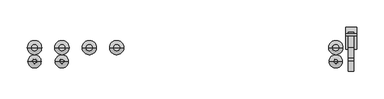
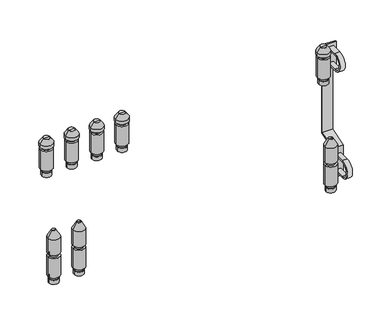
"""IFC4 building model written with IfcOpenShell, lengths in millimetres: valve geometry, PL CZ_Manifold_FT-VA : 12 circuits."""

from ifc_helpers import new_model, si_unit, point, frame, frame_2d, origin, origin_2d, place, context, project, spatial, polyline, circle_curve, trimmed, segment, composite_curve, outline, extrude, source, transform, mapped, element, save
from ifc_brep_helpers import plane_surface, cylinder_surface, revolved_surface, advanced_brep


def valve_8c27288c(model_context):
    return source(origin(), model_context, "Body", "SolidModel", [
        advanced_brep(
        [(178.5, 25.0, 174.88733), (197.5, 25.0, 174.88733), (188.0, 25.0, 174.88733), (178.5, 25.0, 182.9630354), (197.5, 25.0, 182.9630354), (180.0, 25.0, 182.9630354), (196.0, 25.0, 182.9630354), (180.0, 25.0, 189.669747), (196.0, 25.0, 189.669747), (176.0, 25.0, 189.669747), (200.0, 25.0, 189.669747), (176.0, 25.0, 230.330253), (200.0, 25.0, 230.330253), (180.0, 25.0, 230.330253), (196.0, 25.0, 230.330253), (180.0, 25.0, 236.0474786), (196.0, 25.0, 236.0474786), (175.0, 25.0, 236.0474786), (201.0, 25.0, 236.0474786), (175.0, 25.0, 242.337955), (201.0, 25.0, 242.337955), (181.6551779, 25.0, 251.842534), (194.3448221, 25.0, 251.842534), (188.0, 25.0, 251.842534)],
        [
            (0, 1, circle_curve(frame((188.0, 25.0, 174.88733), z_axis=(0.0, 0.0, -1.0), x_axis=(1.0, 0.0, 0.0)), 9.5)),
            (1, 2),
            (2, 0),
            (1, 0, circle_curve(frame((188.0, 25.0, 174.88733), z_axis=(0.0, 0.0, -1.0), x_axis=(1.0, 0.0, 0.0)), 9.5)),
            (3, 4, circle_curve(frame((188.0, 25.0, 182.9630354), z_axis=(0.0, 0.0, -1.0), x_axis=(1.0, 0.0, 0.0)), 9.5)),
            (4, 1),
            (0, 3),
            (4, 3, circle_curve(frame((188.0, 25.0, 182.9630354), z_axis=(0.0, 0.0, -1.0), x_axis=(1.0, 0.0, 0.0)), 9.5)),
            (5, 6, circle_curve(frame((188.0, 25.0, 182.9630354), z_axis=(0.0, 0.0, -1.0), x_axis=(1.0, 0.0, 0.0)), 8.0)),
            (6, 4),
            (3, 5),
            (6, 5, circle_curve(frame((188.0, 25.0, 182.9630354), z_axis=(0.0, 0.0, -1.0), x_axis=(1.0, 0.0, 0.0)), 8.0)),
            (7, 8, circle_curve(frame((188.0, 25.0, 189.669747), z_axis=(0.0, 0.0, -1.0), x_axis=(1.0, 0.0, 0.0)), 8.0)),
            (8, 6),
            (5, 7),
            (8, 7, circle_curve(frame((188.0, 25.0, 189.669747), z_axis=(0.0, 0.0, -1.0), x_axis=(1.0, 0.0, 0.0)), 8.0)),
            (9, 10, circle_curve(frame((188.0, 25.0, 189.669747), z_axis=(0.0, 0.0, -1.0), x_axis=(1.0, 0.0, 0.0)), 12.0)),
            (10, 8),
            (7, 9),
            (10, 9, circle_curve(frame((188.0, 25.0, 189.669747), z_axis=(0.0, 0.0, -1.0), x_axis=(1.0, 0.0, 0.0)), 12.0)),
            (11, 12, circle_curve(frame((188.0, 25.0, 230.330253), z_axis=(0.0, 0.0, -1.0), x_axis=(1.0, 0.0, 0.0)), 12.0)),
            (12, 10),
            (9, 11),
            (12, 11, circle_curve(frame((188.0, 25.0, 230.330253), z_axis=(0.0, 0.0, -1.0), x_axis=(1.0, 0.0, 0.0)), 12.0)),
            (13, 14, circle_curve(frame((188.0, 25.0, 230.330253), z_axis=(0.0, 0.0, -1.0), x_axis=(1.0, 0.0, 0.0)), 8.0)),
            (14, 12),
            (11, 13),
            (14, 13, circle_curve(frame((188.0, 25.0, 230.330253), z_axis=(0.0, 0.0, -1.0), x_axis=(1.0, 0.0, 0.0)), 8.0)),
            (15, 16, circle_curve(frame((188.0, 25.0, 236.0474786), z_axis=(0.0, 0.0, -1.0), x_axis=(1.0, 0.0, 0.0)), 8.0)),
            (16, 14),
            (13, 15),
            (16, 15, circle_curve(frame((188.0, 25.0, 236.0474786), z_axis=(0.0, 0.0, -1.0), x_axis=(1.0, 0.0, 0.0)), 8.0)),
            (17, 18, circle_curve(frame((188.0, 25.0, 236.0474786), z_axis=(0.0, 0.0, -1.0), x_axis=(1.0, 0.0, 0.0)), 13.0)),
            (18, 16),
            (15, 17),
            (18, 17, circle_curve(frame((188.0, 25.0, 236.0474786), z_axis=(0.0, 0.0, -1.0), x_axis=(1.0, 0.0, 0.0)), 13.0)),
            (19, 20, circle_curve(frame((188.0, 25.0, 242.337955), z_axis=(0.0, 0.0, -1.0), x_axis=(1.0, 0.0, 0.0)), 13.0)),
            (20, 18),
            (17, 19),
            (20, 19, circle_curve(frame((188.0, 25.0, 242.337955), z_axis=(0.0, 0.0, -1.0), x_axis=(1.0, 0.0, 0.0)), 13.0)),
            (21, 22, circle_curve(frame((188.0, 25.0, 251.842534), z_axis=(0.0, 0.0, -1.0), x_axis=(1.0, 0.0, 0.0)), 6.3448221)),
            (22, 20),
            (19, 21),
            (22, 21, circle_curve(frame((188.0, 25.0, 251.842534), z_axis=(0.0, 0.0, -1.0), x_axis=(1.0, 0.0, 0.0)), 6.3448221)),
            (23, 22),
            (21, 23),
        ],
        [
            plane_surface(frame((188.0, 25.0, 174.88733), z_axis=(0.0, 0.0, -1.0), x_axis=(1.0, 0.0, 0.0))),
            cylinder_surface(frame((188.0, 25.0, 247.7026565), z_axis=(0.0, 0.0, 1.0), x_axis=(1.0, 0.0, 0.0)), 9.5),
            plane_surface(frame((188.0, 25.0, 182.9630354), z_axis=(0.0, 0.0, 1.0), x_axis=(1.0, 0.0, 0.0))),
            cylinder_surface(frame((188.0, 25.0, 247.7026565), z_axis=(0.0, 0.0, 1.0), x_axis=(1.0, 0.0, 0.0)), 8.0),
            plane_surface(frame((188.0, 25.0, 189.669747), z_axis=(0.0, 0.0, -1.0), x_axis=(1.0, 0.0, 0.0))),
            cylinder_surface(frame((188.0, 25.0, 247.7026565), z_axis=(0.0, 0.0, 1.0), x_axis=(1.0, 0.0, 0.0)), 12.0),
            plane_surface(frame((188.0, 25.0, 230.330253), z_axis=(0.0, 0.0, 1.0), x_axis=(1.0, 0.0, 0.0))),
            plane_surface(frame((188.0, 25.0, 236.0474786), z_axis=(0.0, 0.0, -1.0), x_axis=(1.0, 0.0, 0.0))),
            cylinder_surface(frame((188.0, 25.0, 247.7026565), z_axis=(0.0, 0.0, 1.0), x_axis=(1.0, 0.0, 0.0)), 13.0),
            revolved_surface(polyline([(201.0, 25.0, 242.337955), (194.3448221, 25.0, 251.842534)]), (188.0, 25.0, 247.7026565), (0.0, 0.0, 1.0)),
            plane_surface(frame((188.0, 25.0, 251.842534), z_axis=(0.0, 0.0, 1.0), x_axis=(1.0, 0.0, 0.0))),
        ],
        [
            (0, [[1, 2, 3]]),
            (0, [[4, -3, -2]]),
            (1, [[5, 6, -1, 7]]),
            (1, [[8, -7, -4, -6]]),
            (2, [[9, 10, -5, 11]]),
            (2, [[12, -11, -8, -10]]),
            (3, [[13, 14, -9, 15]]),
            (3, [[16, -15, -12, -14]]),
            (4, [[17, 18, -13, 19]]),
            (4, [[20, -19, -16, -18]]),
            (5, [[21, 22, -17, 23]]),
            (5, [[24, -23, -20, -22]]),
            (6, [[25, 26, -21, 27]]),
            (6, [[28, -27, -24, -26]]),
            (3, [[29, 30, -25, 31]]),
            (3, [[32, -31, -28, -30]]),
            (7, [[33, 34, -29, 35]]),
            (7, [[36, -35, -32, -34]]),
            (8, [[37, 38, -33, 39]]),
            (8, [[40, -39, -36, -38]]),
            (9, [[41, 42, -37, 43]]),
            (9, [[44, -43, -40, -42]]),
            (10, [[45, -41, 46]]),
            (10, [[-46, -44, -45]]),
        ],
    ),
        advanced_brep(
        [(128.5, 25.0, 174.88733), (147.5, 25.0, 174.88733), (138.0, 25.0, 174.88733), (128.5, 25.0, 182.9630354), (147.5, 25.0, 182.9630354), (130.0, 25.0, 182.9630354), (146.0, 25.0, 182.9630354), (130.0, 25.0, 189.669747), (146.0, 25.0, 189.669747), (126.0, 25.0, 189.669747), (150.0, 25.0, 189.669747), (126.0, 25.0, 230.330253), (150.0, 25.0, 230.330253), (130.0, 25.0, 230.330253), (146.0, 25.0, 230.330253), (130.0, 25.0, 236.0474786), (146.0, 25.0, 236.0474786), (125.0, 25.0, 236.0474786), (151.0, 25.0, 236.0474786), (125.0, 25.0, 242.337955), (151.0, 25.0, 242.337955), (131.6551779, 25.0, 251.842534), (144.3448221, 25.0, 251.842534), (138.0, 25.0, 251.842534)],
        [
            (0, 1, circle_curve(frame((138.0, 25.0, 174.88733), z_axis=(0.0, 0.0, -1.0), x_axis=(1.0, 0.0, 0.0)), 9.5)),
            (1, 2),
            (2, 0),
            (1, 0, circle_curve(frame((138.0, 25.0, 174.88733), z_axis=(0.0, 0.0, -1.0), x_axis=(1.0, 0.0, 0.0)), 9.5)),
            (3, 4, circle_curve(frame((138.0, 25.0, 182.9630354), z_axis=(0.0, 0.0, -1.0), x_axis=(1.0, 0.0, 0.0)), 9.5)),
            (4, 1),
            (0, 3),
            (4, 3, circle_curve(frame((138.0, 25.0, 182.9630354), z_axis=(0.0, 0.0, -1.0), x_axis=(1.0, 0.0, 0.0)), 9.5)),
            (5, 6, circle_curve(frame((138.0, 25.0, 182.9630354), z_axis=(0.0, 0.0, -1.0), x_axis=(1.0, 0.0, 0.0)), 8.0)),
            (6, 4),
            (3, 5),
            (6, 5, circle_curve(frame((138.0, 25.0, 182.9630354), z_axis=(0.0, 0.0, -1.0), x_axis=(1.0, 0.0, 0.0)), 8.0)),
            (7, 8, circle_curve(frame((138.0, 25.0, 189.669747), z_axis=(0.0, 0.0, -1.0), x_axis=(1.0, 0.0, 0.0)), 8.0)),
            (8, 6),
            (5, 7),
            (8, 7, circle_curve(frame((138.0, 25.0, 189.669747), z_axis=(0.0, 0.0, -1.0), x_axis=(1.0, 0.0, 0.0)), 8.0)),
            (9, 10, circle_curve(frame((138.0, 25.0, 189.669747), z_axis=(0.0, 0.0, -1.0), x_axis=(1.0, 0.0, 0.0)), 12.0)),
            (10, 8),
            (7, 9),
            (10, 9, circle_curve(frame((138.0, 25.0, 189.669747), z_axis=(0.0, 0.0, -1.0), x_axis=(1.0, 0.0, 0.0)), 12.0)),
            (11, 12, circle_curve(frame((138.0, 25.0, 230.330253), z_axis=(0.0, 0.0, -1.0), x_axis=(1.0, 0.0, 0.0)), 12.0)),
            (12, 10),
            (9, 11),
            (12, 11, circle_curve(frame((138.0, 25.0, 230.330253), z_axis=(0.0, 0.0, -1.0), x_axis=(1.0, 0.0, 0.0)), 12.0)),
            (13, 14, circle_curve(frame((138.0, 25.0, 230.330253), z_axis=(0.0, 0.0, -1.0), x_axis=(1.0, 0.0, 0.0)), 8.0)),
            (14, 12),
            (11, 13),
            (14, 13, circle_curve(frame((138.0, 25.0, 230.330253), z_axis=(0.0, 0.0, -1.0), x_axis=(1.0, 0.0, 0.0)), 8.0)),
            (15, 16, circle_curve(frame((138.0, 25.0, 236.0474786), z_axis=(0.0, 0.0, -1.0), x_axis=(1.0, 0.0, 0.0)), 8.0)),
            (16, 14),
            (13, 15),
            (16, 15, circle_curve(frame((138.0, 25.0, 236.0474786), z_axis=(0.0, 0.0, -1.0), x_axis=(1.0, 0.0, 0.0)), 8.0)),
            (17, 18, circle_curve(frame((138.0, 25.0, 236.0474786), z_axis=(0.0, 0.0, -1.0), x_axis=(1.0, 0.0, 0.0)), 13.0)),
            (18, 16),
            (15, 17),
            (18, 17, circle_curve(frame((138.0, 25.0, 236.0474786), z_axis=(0.0, 0.0, -1.0), x_axis=(1.0, 0.0, 0.0)), 13.0)),
            (19, 20, circle_curve(frame((138.0, 25.0, 242.337955), z_axis=(0.0, 0.0, -1.0), x_axis=(1.0, 0.0, 0.0)), 13.0)),
            (20, 18),
            (17, 19),
            (20, 19, circle_curve(frame((138.0, 25.0, 242.337955), z_axis=(0.0, 0.0, -1.0), x_axis=(1.0, 0.0, 0.0)), 13.0)),
            (21, 22, circle_curve(frame((138.0, 25.0, 251.842534), z_axis=(0.0, 0.0, -1.0), x_axis=(1.0, 0.0, 0.0)), 6.3448221)),
            (22, 20),
            (19, 21),
            (22, 21, circle_curve(frame((138.0, 25.0, 251.842534), z_axis=(0.0, 0.0, -1.0), x_axis=(1.0, 0.0, 0.0)), 6.3448221)),
            (23, 22),
            (21, 23),
        ],
        [
            plane_surface(frame((138.0, 25.0, 174.88733), z_axis=(0.0, 0.0, -1.0), x_axis=(1.0, 0.0, 0.0))),
            cylinder_surface(frame((138.0, 25.0, 247.7026565), z_axis=(0.0, 0.0, 1.0), x_axis=(1.0, 0.0, 0.0)), 9.5),
            plane_surface(frame((138.0, 25.0, 182.9630354), z_axis=(0.0, 0.0, 1.0), x_axis=(1.0, 0.0, 0.0))),
            cylinder_surface(frame((138.0, 25.0, 247.7026565), z_axis=(0.0, 0.0, 1.0), x_axis=(1.0, 0.0, 0.0)), 8.0),
            plane_surface(frame((138.0, 25.0, 189.669747), z_axis=(0.0, 0.0, -1.0), x_axis=(1.0, 0.0, 0.0))),
            cylinder_surface(frame((138.0, 25.0, 247.7026565), z_axis=(0.0, 0.0, 1.0), x_axis=(1.0, 0.0, 0.0)), 12.0),
            plane_surface(frame((138.0, 25.0, 230.330253), z_axis=(0.0, 0.0, 1.0), x_axis=(1.0, 0.0, 0.0))),
            plane_surface(frame((138.0, 25.0, 236.0474786), z_axis=(0.0, 0.0, -1.0), x_axis=(1.0, 0.0, 0.0))),
            cylinder_surface(frame((138.0, 25.0, 247.7026565), z_axis=(0.0, 0.0, 1.0), x_axis=(1.0, 0.0, 0.0)), 13.0),
            revolved_surface(polyline([(151.0, 25.0, 242.337955), (144.3448221, 25.0, 251.842534)]), (138.0, 25.0, 247.7026565), (0.0, 0.0, 1.0)),
            plane_surface(frame((138.0, 25.0, 251.842534), z_axis=(0.0, 0.0, 1.0), x_axis=(1.0, 0.0, 0.0))),
        ],
        [
            (0, [[1, 2, 3]]),
            (0, [[4, -3, -2]]),
            (1, [[5, 6, -1, 7]]),
            (1, [[8, -7, -4, -6]]),
            (2, [[9, 10, -5, 11]]),
            (2, [[12, -11, -8, -10]]),
            (3, [[13, 14, -9, 15]]),
            (3, [[16, -15, -12, -14]]),
            (4, [[17, 18, -13, 19]]),
            (4, [[20, -19, -16, -18]]),
            (5, [[21, 22, -17, 23]]),
            (5, [[24, -23, -20, -22]]),
            (6, [[25, 26, -21, 27]]),
            (6, [[28, -27, -24, -26]]),
            (3, [[29, 30, -25, 31]]),
            (3, [[32, -31, -28, -30]]),
            (7, [[33, 34, -29, 35]]),
            (7, [[36, -35, -32, -34]]),
            (8, [[37, 38, -33, 39]]),
            (8, [[40, -39, -36, -38]]),
            (9, [[41, 42, -37, 43]]),
            (9, [[44, -43, -40, -42]]),
            (10, [[45, -41, 46]]),
            (10, [[-46, -44, -45]]),
        ],
    ),
        advanced_brep(
        [(78.5, 0.0, -35.11267), (97.5, 0.0, -35.11267), (88.0, 0.0, -35.11267), (78.5, 0.0, -27.0369646), (97.5, 0.0, -27.0369646), (80.0, 0.0, -27.0369646), (96.0, 0.0, -27.0369646), (80.0, 0.0, -20.330253), (96.0, 0.0, -20.330253), (76.0, 0.0, -20.330253), (100.0, 0.0, -20.330253), (76.0, 0.0, 20.330253), (100.0, 0.0, 20.330253), (80.0, 0.0, 20.330253), (96.0, 0.0, 20.330253), (80.0, 0.0, 27.0474786), (96.0, 0.0, 27.0474786), (76.0, 0.0, 27.0474786), (100.0, 0.0, 27.0474786), (76.0, 0.0, 59.4084325), (100.0, 0.0, 59.4084325), (84.0, 0.0, 73.264839), (92.0, 0.0, 73.264839), (88.0, 0.0, 73.264839)],
        [
            (0, 1, circle_curve(frame((88.0, 0.0, -35.11267), z_axis=(0.0, 0.0, -1.0), x_axis=(1.0, 0.0, 0.0)), 9.5)),
            (1, 2),
            (2, 0),
            (1, 0, circle_curve(frame((88.0, 0.0, -35.11267), z_axis=(0.0, 0.0, -1.0), x_axis=(1.0, 0.0, 0.0)), 9.5)),
            (3, 4, circle_curve(frame((88.0, 0.0, -27.0369646), z_axis=(0.0, 0.0, -1.0), x_axis=(1.0, 0.0, 0.0)), 9.5)),
            (4, 1),
            (0, 3),
            (4, 3, circle_curve(frame((88.0, 0.0, -27.0369646), z_axis=(0.0, 0.0, -1.0), x_axis=(1.0, 0.0, 0.0)), 9.5)),
            (5, 6, circle_curve(frame((88.0, 0.0, -27.0369646), z_axis=(0.0, 0.0, -1.0), x_axis=(1.0, 0.0, 0.0)), 8.0)),
            (6, 4),
            (3, 5),
            (6, 5, circle_curve(frame((88.0, 0.0, -27.0369646), z_axis=(0.0, 0.0, -1.0), x_axis=(1.0, 0.0, 0.0)), 8.0)),
            (7, 8, circle_curve(frame((88.0, 0.0, -20.330253), z_axis=(0.0, 0.0, -1.0), x_axis=(1.0, 0.0, 0.0)), 8.0)),
            (8, 6),
            (5, 7),
            (8, 7, circle_curve(frame((88.0, 0.0, -20.330253), z_axis=(0.0, 0.0, -1.0), x_axis=(1.0, 0.0, 0.0)), 8.0)),
            (9, 10, circle_curve(frame((88.0, 0.0, -20.330253), z_axis=(0.0, 0.0, -1.0), x_axis=(1.0, 0.0, 0.0)), 12.0)),
            (10, 8),
            (7, 9),
            (10, 9, circle_curve(frame((88.0, 0.0, -20.330253), z_axis=(0.0, 0.0, -1.0), x_axis=(1.0, 0.0, 0.0)), 12.0)),
            (11, 12, circle_curve(frame((88.0, 0.0, 20.330253), z_axis=(0.0, 0.0, -1.0), x_axis=(1.0, 0.0, 0.0)), 12.0)),
            (12, 10),
            (9, 11),
            (12, 11, circle_curve(frame((88.0, 0.0, 20.330253), z_axis=(0.0, 0.0, -1.0), x_axis=(1.0, 0.0, 0.0)), 12.0)),
            (13, 14, circle_curve(frame((88.0, 0.0, 20.330253), z_axis=(0.0, 0.0, -1.0), x_axis=(1.0, 0.0, 0.0)), 8.0)),
            (14, 12),
            (11, 13),
            (14, 13, circle_curve(frame((88.0, 0.0, 20.330253), z_axis=(0.0, 0.0, -1.0), x_axis=(1.0, 0.0, 0.0)), 8.0)),
            (15, 16, circle_curve(frame((88.0, 0.0, 27.0474786), z_axis=(0.0, 0.0, -1.0), x_axis=(1.0, 0.0, 0.0)), 8.0)),
            (16, 14),
            (13, 15),
            (16, 15, circle_curve(frame((88.0, 0.0, 27.0474786), z_axis=(0.0, 0.0, -1.0), x_axis=(1.0, 0.0, 0.0)), 8.0)),
            (17, 18, circle_curve(frame((88.0, 0.0, 27.0474786), z_axis=(0.0, 0.0, -1.0), x_axis=(1.0, 0.0, 0.0)), 12.0)),
            (18, 16),
            (15, 17),
            (18, 17, circle_curve(frame((88.0, 0.0, 27.0474786), z_axis=(0.0, 0.0, -1.0), x_axis=(1.0, 0.0, 0.0)), 12.0)),
            (19, 20, circle_curve(frame((88.0, 0.0, 59.4084325), z_axis=(0.0, 0.0, -1.0), x_axis=(1.0, 0.0, 0.0)), 12.0)),
            (20, 18),
            (17, 19),
            (20, 19, circle_curve(frame((88.0, 0.0, 59.4084325), z_axis=(0.0, 0.0, -1.0), x_axis=(1.0, 0.0, 0.0)), 12.0)),
            (21, 22, circle_curve(frame((88.0, 0.0, 73.264839), z_axis=(0.0, 0.0, -1.0), x_axis=(1.0, 0.0, 0.0)), 4.0)),
            (22, 20),
            (19, 21),
            (22, 21, circle_curve(frame((88.0, 0.0, 73.264839), z_axis=(0.0, 0.0, -1.0), x_axis=(1.0, 0.0, 0.0)), 4.0)),
            (23, 22),
            (21, 23),
        ],
        [
            plane_surface(frame((88.0, 0.0, -35.11267), z_axis=(0.0, 0.0, -1.0), x_axis=(1.0, 0.0, 0.0))),
            cylinder_surface(frame((88.0, 0.0, 58.264839), z_axis=(0.0, 0.0, 1.0), x_axis=(1.0, 0.0, 0.0)), 9.5),
            plane_surface(frame((88.0, 0.0, -27.0369646), z_axis=(0.0, 0.0, 1.0), x_axis=(1.0, 0.0, 0.0))),
            cylinder_surface(frame((88.0, 0.0, 58.264839), z_axis=(0.0, 0.0, 1.0), x_axis=(1.0, 0.0, 0.0)), 8.0),
            plane_surface(frame((88.0, 0.0, -20.330253), z_axis=(0.0, 0.0, -1.0), x_axis=(1.0, 0.0, 0.0))),
            cylinder_surface(frame((88.0, 0.0, 58.264839), z_axis=(0.0, 0.0, 1.0), x_axis=(1.0, 0.0, 0.0)), 12.0),
            plane_surface(frame((88.0, 0.0, 20.330253), z_axis=(0.0, 0.0, 1.0), x_axis=(1.0, 0.0, 0.0))),
            plane_surface(frame((88.0, 0.0, 27.0474786), z_axis=(0.0, 0.0, -1.0), x_axis=(1.0, 0.0, 0.0))),
            revolved_surface(polyline([(100.0, 0.0, 59.4084325), (92.0, 0.0, 73.264839)]), (88.0, 0.0, 58.264839), (0.0, 0.0, 1.0)),
            plane_surface(frame((88.0, 0.0, 73.264839), z_axis=(0.0, 0.0, 1.0), x_axis=(1.0, 0.0, 0.0))),
        ],
        [
            (0, [[1, 2, 3]]),
            (0, [[4, -3, -2]]),
            (1, [[5, 6, -1, 7]]),
            (1, [[8, -7, -4, -6]]),
            (2, [[9, 10, -5, 11]]),
            (2, [[12, -11, -8, -10]]),
            (3, [[13, 14, -9, 15]]),
            (3, [[16, -15, -12, -14]]),
            (4, [[17, 18, -13, 19]]),
            (4, [[20, -19, -16, -18]]),
            (5, [[21, 22, -17, 23]]),
            (5, [[24, -23, -20, -22]]),
            (6, [[25, 26, -21, 27]]),
            (6, [[28, -27, -24, -26]]),
            (3, [[29, 30, -25, 31]]),
            (3, [[32, -31, -28, -30]]),
            (7, [[33, 34, -29, 35]]),
            (7, [[36, -35, -32, -34]]),
            (5, [[37, 38, -33, 39]]),
            (5, [[40, -39, -36, -38]]),
            (8, [[41, 42, -37, 43]]),
            (8, [[44, -43, -40, -42]]),
            (9, [[45, -41, 46]]),
            (9, [[-46, -44, -45]]),
        ],
    ),
        advanced_brep(
        [(78.5, 25.0, 174.88733), (97.5, 25.0, 174.88733), (88.0, 25.0, 174.88733), (78.5, 25.0, 182.9630354), (97.5, 25.0, 182.9630354), (80.0, 25.0, 182.9630354), (96.0, 25.0, 182.9630354), (80.0, 25.0, 189.669747), (96.0, 25.0, 189.669747), (76.0, 25.0, 189.669747), (100.0, 25.0, 189.669747), (76.0, 25.0, 230.330253), (100.0, 25.0, 230.330253), (80.0, 25.0, 230.330253), (96.0, 25.0, 230.330253), (80.0, 25.0, 236.0474786), (96.0, 25.0, 236.0474786), (75.0, 25.0, 236.0474786), (101.0, 25.0, 236.0474786), (75.0, 25.0, 242.337955), (101.0, 25.0, 242.337955), (81.6551779, 25.0, 251.842534), (94.3448221, 25.0, 251.842534), (88.0, 25.0, 251.842534)],
        [
            (0, 1, circle_curve(frame((88.0, 25.0, 174.88733), z_axis=(0.0, 0.0, -1.0), x_axis=(1.0, 0.0, 0.0)), 9.5)),
            (1, 2),
            (2, 0),
            (1, 0, circle_curve(frame((88.0, 25.0, 174.88733), z_axis=(0.0, 0.0, -1.0), x_axis=(1.0, 0.0, 0.0)), 9.5)),
            (3, 4, circle_curve(frame((88.0, 25.0, 182.9630354), z_axis=(0.0, 0.0, -1.0), x_axis=(1.0, 0.0, 0.0)), 9.5)),
            (4, 1),
            (0, 3),
            (4, 3, circle_curve(frame((88.0, 25.0, 182.9630354), z_axis=(0.0, 0.0, -1.0), x_axis=(1.0, 0.0, 0.0)), 9.5)),
            (5, 6, circle_curve(frame((88.0, 25.0, 182.9630354), z_axis=(0.0, 0.0, -1.0), x_axis=(1.0, 0.0, 0.0)), 8.0)),
            (6, 4),
            (3, 5),
            (6, 5, circle_curve(frame((88.0, 25.0, 182.9630354), z_axis=(0.0, 0.0, -1.0), x_axis=(1.0, 0.0, 0.0)), 8.0)),
            (7, 8, circle_curve(frame((88.0, 25.0, 189.669747), z_axis=(0.0, 0.0, -1.0), x_axis=(1.0, 0.0, 0.0)), 8.0)),
            (8, 6),
            (5, 7),
            (8, 7, circle_curve(frame((88.0, 25.0, 189.669747), z_axis=(0.0, 0.0, -1.0), x_axis=(1.0, 0.0, 0.0)), 8.0)),
            (9, 10, circle_curve(frame((88.0, 25.0, 189.669747), z_axis=(0.0, 0.0, -1.0), x_axis=(1.0, 0.0, 0.0)), 12.0)),
            (10, 8),
            (7, 9),
            (10, 9, circle_curve(frame((88.0, 25.0, 189.669747), z_axis=(0.0, 0.0, -1.0), x_axis=(1.0, 0.0, 0.0)), 12.0)),
            (11, 12, circle_curve(frame((88.0, 25.0, 230.330253), z_axis=(0.0, 0.0, -1.0), x_axis=(1.0, 0.0, 0.0)), 12.0)),
            (12, 10),
            (9, 11),
            (12, 11, circle_curve(frame((88.0, 25.0, 230.330253), z_axis=(0.0, 0.0, -1.0), x_axis=(1.0, 0.0, 0.0)), 12.0)),
            (13, 14, circle_curve(frame((88.0, 25.0, 230.330253), z_axis=(0.0, 0.0, -1.0), x_axis=(1.0, 0.0, 0.0)), 8.0)),
            (14, 12),
            (11, 13),
            (14, 13, circle_curve(frame((88.0, 25.0, 230.330253), z_axis=(0.0, 0.0, -1.0), x_axis=(1.0, 0.0, 0.0)), 8.0)),
            (15, 16, circle_curve(frame((88.0, 25.0, 236.0474786), z_axis=(0.0, 0.0, -1.0), x_axis=(1.0, 0.0, 0.0)), 8.0)),
            (16, 14),
            (13, 15),
            (16, 15, circle_curve(frame((88.0, 25.0, 236.0474786), z_axis=(0.0, 0.0, -1.0), x_axis=(1.0, 0.0, 0.0)), 8.0)),
            (17, 18, circle_curve(frame((88.0, 25.0, 236.0474786), z_axis=(0.0, 0.0, -1.0), x_axis=(1.0, 0.0, 0.0)), 13.0)),
            (18, 16),
            (15, 17),
            (18, 17, circle_curve(frame((88.0, 25.0, 236.0474786), z_axis=(0.0, 0.0, -1.0), x_axis=(1.0, 0.0, 0.0)), 13.0)),
            (19, 20, circle_curve(frame((88.0, 25.0, 242.337955), z_axis=(0.0, 0.0, -1.0), x_axis=(1.0, 0.0, 0.0)), 13.0)),
            (20, 18),
            (17, 19),
            (20, 19, circle_curve(frame((88.0, 25.0, 242.337955), z_axis=(0.0, 0.0, -1.0), x_axis=(1.0, 0.0, 0.0)), 13.0)),
            (21, 22, circle_curve(frame((88.0, 25.0, 251.842534), z_axis=(0.0, 0.0, -1.0), x_axis=(1.0, 0.0, 0.0)), 6.3448221)),
            (22, 20),
            (19, 21),
            (22, 21, circle_curve(frame((88.0, 25.0, 251.842534), z_axis=(0.0, 0.0, -1.0), x_axis=(1.0, 0.0, 0.0)), 6.3448221)),
            (23, 22),
            (21, 23),
        ],
        [
            plane_surface(frame((88.0, 25.0, 174.88733), z_axis=(0.0, 0.0, -1.0), x_axis=(1.0, 0.0, 0.0))),
            cylinder_surface(frame((88.0, 25.0, 247.7026565), z_axis=(0.0, 0.0, 1.0), x_axis=(1.0, 0.0, 0.0)), 9.5),
            plane_surface(frame((88.0, 25.0, 182.9630354), z_axis=(0.0, 0.0, 1.0), x_axis=(1.0, 0.0, 0.0))),
            cylinder_surface(frame((88.0, 25.0, 247.7026565), z_axis=(0.0, 0.0, 1.0), x_axis=(1.0, 0.0, 0.0)), 8.0),
            plane_surface(frame((88.0, 25.0, 189.669747), z_axis=(0.0, 0.0, -1.0), x_axis=(1.0, 0.0, 0.0))),
            cylinder_surface(frame((88.0, 25.0, 247.7026565), z_axis=(0.0, 0.0, 1.0), x_axis=(1.0, 0.0, 0.0)), 12.0),
            plane_surface(frame((88.0, 25.0, 230.330253), z_axis=(0.0, 0.0, 1.0), x_axis=(1.0, 0.0, 0.0))),
            plane_surface(frame((88.0, 25.0, 236.0474786), z_axis=(0.0, 0.0, -1.0), x_axis=(1.0, 0.0, 0.0))),
            cylinder_surface(frame((88.0, 25.0, 247.7026565), z_axis=(0.0, 0.0, 1.0), x_axis=(1.0, 0.0, 0.0)), 13.0),
            revolved_surface(polyline([(101.0, 25.0, 242.337955), (94.3448221, 25.0, 251.842534)]), (88.0, 25.0, 247.7026565), (0.0, 0.0, 1.0)),
            plane_surface(frame((88.0, 25.0, 251.842534), z_axis=(0.0, 0.0, 1.0), x_axis=(1.0, 0.0, 0.0))),
        ],
        [
            (0, [[1, 2, 3]]),
            (0, [[4, -3, -2]]),
            (1, [[5, 6, -1, 7]]),
            (1, [[8, -7, -4, -6]]),
            (2, [[9, 10, -5, 11]]),
            (2, [[12, -11, -8, -10]]),
            (3, [[13, 14, -9, 15]]),
            (3, [[16, -15, -12, -14]]),
            (4, [[17, 18, -13, 19]]),
            (4, [[20, -19, -16, -18]]),
            (5, [[21, 22, -17, 23]]),
            (5, [[24, -23, -20, -22]]),
            (6, [[25, 26, -21, 27]]),
            (6, [[28, -27, -24, -26]]),
            (3, [[29, 30, -25, 31]]),
            (3, [[32, -31, -28, -30]]),
            (7, [[33, 34, -29, 35]]),
            (7, [[36, -35, -32, -34]]),
            (8, [[37, 38, -33, 39]]),
            (8, [[40, -39, -36, -38]]),
            (9, [[41, 42, -37, 43]]),
            (9, [[44, -43, -40, -42]]),
            (10, [[45, -41, 46]]),
            (10, [[-46, -44, -45]]),
        ],
    ),
        advanced_brep(
        [(578.5, 0.0, -35.11267), (597.5, 0.0, -35.11267), (588.0, 0.0, -35.11267), (578.5, 0.0, -27.0369646), (597.5, 0.0, -27.0369646), (580.0, 0.0, -27.0369646), (596.0, 0.0, -27.0369646), (580.0, 0.0, -20.330253), (596.0, 0.0, -20.330253), (576.0, 0.0, -20.330253), (600.0, 0.0, -20.330253), (576.0, 0.0, 20.330253), (600.0, 0.0, 20.330253), (580.0, 0.0, 20.330253), (596.0, 0.0, 20.330253), (580.0, 0.0, 27.0474786), (596.0, 0.0, 27.0474786), (576.0, 0.0, 27.0474786), (600.0, 0.0, 27.0474786), (576.0, 0.0, 59.4084325), (600.0, 0.0, 59.4084325), (584.0, 0.0, 73.264839), (592.0, 0.0, 73.264839), (588.0, 0.0, 73.264839)],
        [
            (0, 1, circle_curve(frame((588.0, 0.0, -35.11267), z_axis=(0.0, 0.0, -1.0), x_axis=(1.0, 0.0, 0.0)), 9.5)),
            (1, 2),
            (2, 0),
            (1, 0, circle_curve(frame((588.0, 0.0, -35.11267), z_axis=(0.0, 0.0, -1.0), x_axis=(1.0, 0.0, 0.0)), 9.5)),
            (3, 4, circle_curve(frame((588.0, 0.0, -27.0369646), z_axis=(0.0, 0.0, -1.0), x_axis=(1.0, 0.0, 0.0)), 9.5)),
            (4, 1),
            (0, 3),
            (4, 3, circle_curve(frame((588.0, 0.0, -27.0369646), z_axis=(0.0, 0.0, -1.0), x_axis=(1.0, 0.0, 0.0)), 9.5)),
            (5, 6, circle_curve(frame((588.0, 0.0, -27.0369646), z_axis=(0.0, 0.0, -1.0), x_axis=(1.0, 0.0, 0.0)), 8.0)),
            (6, 4),
            (3, 5),
            (6, 5, circle_curve(frame((588.0, 0.0, -27.0369646), z_axis=(0.0, 0.0, -1.0), x_axis=(1.0, 0.0, 0.0)), 8.0)),
            (7, 8, circle_curve(frame((588.0, 0.0, -20.330253), z_axis=(0.0, 0.0, -1.0), x_axis=(1.0, 0.0, 0.0)), 8.0)),
            (8, 6),
            (5, 7),
            (8, 7, circle_curve(frame((588.0, 0.0, -20.330253), z_axis=(0.0, 0.0, -1.0), x_axis=(1.0, 0.0, 0.0)), 8.0)),
            (9, 10, circle_curve(frame((588.0, 0.0, -20.330253), z_axis=(0.0, 0.0, -1.0), x_axis=(1.0, 0.0, 0.0)), 12.0)),
            (10, 8),
            (7, 9),
            (10, 9, circle_curve(frame((588.0, 0.0, -20.330253), z_axis=(0.0, 0.0, -1.0), x_axis=(1.0, 0.0, 0.0)), 12.0)),
            (11, 12, circle_curve(frame((588.0, 0.0, 20.330253), z_axis=(0.0, 0.0, -1.0), x_axis=(1.0, 0.0, 0.0)), 12.0)),
            (12, 10),
            (9, 11),
            (12, 11, circle_curve(frame((588.0, 0.0, 20.330253), z_axis=(0.0, 0.0, -1.0), x_axis=(1.0, 0.0, 0.0)), 12.0)),
            (13, 14, circle_curve(frame((588.0, 0.0, 20.330253), z_axis=(0.0, 0.0, -1.0), x_axis=(1.0, 0.0, 0.0)), 8.0)),
            (14, 12),
            (11, 13),
            (14, 13, circle_curve(frame((588.0, 0.0, 20.330253), z_axis=(0.0, 0.0, -1.0), x_axis=(1.0, 0.0, 0.0)), 8.0)),
            (15, 16, circle_curve(frame((588.0, 0.0, 27.0474786), z_axis=(0.0, 0.0, -1.0), x_axis=(1.0, 0.0, 0.0)), 8.0)),
            (16, 14),
            (13, 15),
            (16, 15, circle_curve(frame((588.0, 0.0, 27.0474786), z_axis=(0.0, 0.0, -1.0), x_axis=(1.0, 0.0, 0.0)), 8.0)),
            (17, 18, circle_curve(frame((588.0, 0.0, 27.0474786), z_axis=(0.0, 0.0, -1.0), x_axis=(1.0, 0.0, 0.0)), 12.0)),
            (18, 16),
            (15, 17),
            (18, 17, circle_curve(frame((588.0, 0.0, 27.0474786), z_axis=(0.0, 0.0, -1.0), x_axis=(1.0, 0.0, 0.0)), 12.0)),
            (19, 20, circle_curve(frame((588.0, 0.0, 59.4084325), z_axis=(0.0, 0.0, -1.0), x_axis=(1.0, 0.0, 0.0)), 12.0)),
            (20, 18),
            (17, 19),
            (20, 19, circle_curve(frame((588.0, 0.0, 59.4084325), z_axis=(0.0, 0.0, -1.0), x_axis=(1.0, 0.0, 0.0)), 12.0)),
            (21, 22, circle_curve(frame((588.0, 0.0, 73.264839), z_axis=(0.0, 0.0, -1.0), x_axis=(1.0, 0.0, 0.0)), 4.0)),
            (22, 20),
            (19, 21),
            (22, 21, circle_curve(frame((588.0, 0.0, 73.264839), z_axis=(0.0, 0.0, -1.0), x_axis=(1.0, 0.0, 0.0)), 4.0)),
            (23, 22),
            (21, 23),
        ],
        [
            plane_surface(frame((588.0, 0.0, -35.11267), z_axis=(0.0, 0.0, -1.0), x_axis=(1.0, 0.0, 0.0))),
            cylinder_surface(frame((588.0, 0.0, 58.264839), z_axis=(0.0, 0.0, 1.0), x_axis=(1.0, 0.0, 0.0)), 9.5),
            plane_surface(frame((588.0, 0.0, -27.0369646), z_axis=(0.0, 0.0, 1.0), x_axis=(1.0, 0.0, 0.0))),
            cylinder_surface(frame((588.0, 0.0, 58.264839), z_axis=(0.0, 0.0, 1.0), x_axis=(1.0, 0.0, 0.0)), 8.0),
            plane_surface(frame((588.0, 0.0, -20.330253), z_axis=(0.0, 0.0, -1.0), x_axis=(1.0, 0.0, 0.0))),
            cylinder_surface(frame((588.0, 0.0, 58.264839), z_axis=(0.0, 0.0, 1.0), x_axis=(1.0, 0.0, 0.0)), 12.0),
            plane_surface(frame((588.0, 0.0, 20.330253), z_axis=(0.0, 0.0, 1.0), x_axis=(1.0, 0.0, 0.0))),
            plane_surface(frame((588.0, 0.0, 27.0474786), z_axis=(0.0, 0.0, -1.0), x_axis=(1.0, 0.0, 0.0))),
            revolved_surface(polyline([(600.0, 0.0, 59.4084325), (592.0, 0.0, 73.264839)]), (588.0, 0.0, 58.264839), (0.0, 0.0, 1.0)),
            plane_surface(frame((588.0, 0.0, 73.264839), z_axis=(0.0, 0.0, 1.0), x_axis=(1.0, 0.0, 0.0))),
        ],
        [
            (0, [[1, 2, 3]]),
            (0, [[4, -3, -2]]),
            (1, [[5, 6, -1, 7]]),
            (1, [[8, -7, -4, -6]]),
            (2, [[9, 10, -5, 11]]),
            (2, [[12, -11, -8, -10]]),
            (3, [[13, 14, -9, 15]]),
            (3, [[16, -15, -12, -14]]),
            (4, [[17, 18, -13, 19]]),
            (4, [[20, -19, -16, -18]]),
            (5, [[21, 22, -17, 23]]),
            (5, [[24, -23, -20, -22]]),
            (6, [[25, 26, -21, 27]]),
            (6, [[28, -27, -24, -26]]),
            (3, [[29, 30, -25, 31]]),
            (3, [[32, -31, -28, -30]]),
            (7, [[33, 34, -29, 35]]),
            (7, [[36, -35, -32, -34]]),
            (5, [[37, 38, -33, 39]]),
            (5, [[40, -39, -36, -38]]),
            (8, [[41, 42, -37, 43]]),
            (8, [[44, -43, -40, -42]]),
            (9, [[45, -41, 46]]),
            (9, [[-46, -44, -45]]),
        ],
    ),
        advanced_brep(
        [(578.5, 25.0, 174.88733), (597.5, 25.0, 174.88733), (588.0, 25.0, 174.88733), (578.5, 25.0, 182.9630354), (597.5, 25.0, 182.9630354), (580.0, 25.0, 182.9630354), (596.0, 25.0, 182.9630354), (580.0, 25.0, 189.669747), (596.0, 25.0, 189.669747), (576.0, 25.0, 189.669747), (600.0, 25.0, 189.669747), (576.0, 25.0, 230.330253), (600.0, 25.0, 230.330253), (580.0, 25.0, 230.330253), (596.0, 25.0, 230.330253), (580.0, 25.0, 236.0474786), (596.0, 25.0, 236.0474786), (575.0, 25.0, 236.0474786), (601.0, 25.0, 236.0474786), (575.0, 25.0, 242.337955), (601.0, 25.0, 242.337955), (581.6551779, 25.0, 251.842534), (594.3448221, 25.0, 251.842534), (588.0, 25.0, 251.842534)],
        [
            (0, 1, circle_curve(frame((588.0, 25.0, 174.88733), z_axis=(0.0, 0.0, -1.0), x_axis=(1.0, 0.0, 0.0)), 9.5)),
            (1, 2),
            (2, 0),
            (1, 0, circle_curve(frame((588.0, 25.0, 174.88733), z_axis=(0.0, 0.0, -1.0), x_axis=(1.0, 0.0, 0.0)), 9.5)),
            (3, 4, circle_curve(frame((588.0, 25.0, 182.9630354), z_axis=(0.0, 0.0, -1.0), x_axis=(1.0, 0.0, 0.0)), 9.5)),
            (4, 1),
            (0, 3),
            (4, 3, circle_curve(frame((588.0, 25.0, 182.9630354), z_axis=(0.0, 0.0, -1.0), x_axis=(1.0, 0.0, 0.0)), 9.5)),
            (5, 6, circle_curve(frame((588.0, 25.0, 182.9630354), z_axis=(0.0, 0.0, -1.0), x_axis=(1.0, 0.0, 0.0)), 8.0)),
            (6, 4),
            (3, 5),
            (6, 5, circle_curve(frame((588.0, 25.0, 182.9630354), z_axis=(0.0, 0.0, -1.0), x_axis=(1.0, 0.0, 0.0)), 8.0)),
            (7, 8, circle_curve(frame((588.0, 25.0, 189.669747), z_axis=(0.0, 0.0, -1.0), x_axis=(1.0, 0.0, 0.0)), 8.0)),
            (8, 6),
            (5, 7),
            (8, 7, circle_curve(frame((588.0, 25.0, 189.669747), z_axis=(0.0, 0.0, -1.0), x_axis=(1.0, 0.0, 0.0)), 8.0)),
            (9, 10, circle_curve(frame((588.0, 25.0, 189.669747), z_axis=(0.0, 0.0, -1.0), x_axis=(1.0, 0.0, 0.0)), 12.0)),
            (10, 8),
            (7, 9),
            (10, 9, circle_curve(frame((588.0, 25.0, 189.669747), z_axis=(0.0, 0.0, -1.0), x_axis=(1.0, 0.0, 0.0)), 12.0)),
            (11, 12, circle_curve(frame((588.0, 25.0, 230.330253), z_axis=(0.0, 0.0, -1.0), x_axis=(1.0, 0.0, 0.0)), 12.0)),
            (12, 10),
            (9, 11),
            (12, 11, circle_curve(frame((588.0, 25.0, 230.330253), z_axis=(0.0, 0.0, -1.0), x_axis=(1.0, 0.0, 0.0)), 12.0)),
            (13, 14, circle_curve(frame((588.0, 25.0, 230.330253), z_axis=(0.0, 0.0, -1.0), x_axis=(1.0, 0.0, 0.0)), 8.0)),
            (14, 12),
            (11, 13),
            (14, 13, circle_curve(frame((588.0, 25.0, 230.330253), z_axis=(0.0, 0.0, -1.0), x_axis=(1.0, 0.0, 0.0)), 8.0)),
            (15, 16, circle_curve(frame((588.0, 25.0, 236.0474786), z_axis=(0.0, 0.0, -1.0), x_axis=(1.0, 0.0, 0.0)), 8.0)),
            (16, 14),
            (13, 15),
            (16, 15, circle_curve(frame((588.0, 25.0, 236.0474786), z_axis=(0.0, 0.0, -1.0), x_axis=(1.0, 0.0, 0.0)), 8.0)),
            (17, 18, circle_curve(frame((588.0, 25.0, 236.0474786), z_axis=(0.0, 0.0, -1.0), x_axis=(1.0, 0.0, 0.0)), 13.0)),
            (18, 16),
            (15, 17),
            (18, 17, circle_curve(frame((588.0, 25.0, 236.0474786), z_axis=(0.0, 0.0, -1.0), x_axis=(1.0, 0.0, 0.0)), 13.0)),
            (19, 20, circle_curve(frame((588.0, 25.0, 242.337955), z_axis=(0.0, 0.0, -1.0), x_axis=(1.0, 0.0, 0.0)), 13.0)),
            (20, 18),
            (17, 19),
            (20, 19, circle_curve(frame((588.0, 25.0, 242.337955), z_axis=(0.0, 0.0, -1.0), x_axis=(1.0, 0.0, 0.0)), 13.0)),
            (21, 22, circle_curve(frame((588.0, 25.0, 251.842534), z_axis=(0.0, 0.0, -1.0), x_axis=(1.0, 0.0, 0.0)), 6.3448221)),
            (22, 20),
            (19, 21),
            (22, 21, circle_curve(frame((588.0, 25.0, 251.842534), z_axis=(0.0, 0.0, -1.0), x_axis=(1.0, 0.0, 0.0)), 6.3448221)),
            (23, 22),
            (21, 23),
        ],
        [
            plane_surface(frame((588.0, 25.0, 174.88733), z_axis=(0.0, 0.0, -1.0), x_axis=(1.0, 0.0, 0.0))),
            cylinder_surface(frame((588.0, 25.0, 247.7026565), z_axis=(0.0, 0.0, 1.0), x_axis=(1.0, 0.0, 0.0)), 9.5),
            plane_surface(frame((588.0, 25.0, 182.9630354), z_axis=(0.0, 0.0, 1.0), x_axis=(1.0, 0.0, 0.0))),
            cylinder_surface(frame((588.0, 25.0, 247.7026565), z_axis=(0.0, 0.0, 1.0), x_axis=(1.0, 0.0, 0.0)), 8.0),
            plane_surface(frame((588.0, 25.0, 189.669747), z_axis=(0.0, 0.0, -1.0), x_axis=(1.0, 0.0, 0.0))),
            cylinder_surface(frame((588.0, 25.0, 247.7026565), z_axis=(0.0, 0.0, 1.0), x_axis=(1.0, 0.0, 0.0)), 12.0),
            plane_surface(frame((588.0, 25.0, 230.330253), z_axis=(0.0, 0.0, 1.0), x_axis=(1.0, 0.0, 0.0))),
            plane_surface(frame((588.0, 25.0, 236.0474786), z_axis=(0.0, 0.0, -1.0), x_axis=(1.0, 0.0, 0.0))),
            cylinder_surface(frame((588.0, 25.0, 247.7026565), z_axis=(0.0, 0.0, 1.0), x_axis=(1.0, 0.0, 0.0)), 13.0),
            revolved_surface(polyline([(601.0, 25.0, 242.337955), (594.3448221, 25.0, 251.842534)]), (588.0, 25.0, 247.7026565), (0.0, 0.0, 1.0)),
            plane_surface(frame((588.0, 25.0, 251.842534), z_axis=(0.0, 0.0, 1.0), x_axis=(1.0, 0.0, 0.0))),
        ],
        [
            (0, [[1, 2, 3]]),
            (0, [[4, -3, -2]]),
            (1, [[5, 6, -1, 7]]),
            (1, [[8, -7, -4, -6]]),
            (2, [[9, 10, -5, 11]]),
            (2, [[12, -11, -8, -10]]),
            (3, [[13, 14, -9, 15]]),
            (3, [[16, -15, -12, -14]]),
            (4, [[17, 18, -13, 19]]),
            (4, [[20, -19, -16, -18]]),
            (5, [[21, 22, -17, 23]]),
            (5, [[24, -23, -20, -22]]),
            (6, [[25, 26, -21, 27]]),
            (6, [[28, -27, -24, -26]]),
            (3, [[29, 30, -25, 31]]),
            (3, [[32, -31, -28, -30]]),
            (7, [[33, 34, -29, 35]]),
            (7, [[36, -35, -32, -34]]),
            (8, [[37, 38, -33, 39]]),
            (8, [[40, -39, -36, -38]]),
            (9, [[41, 42, -37, 43]]),
            (9, [[44, -43, -40, -42]]),
            (10, [[45, -41, 46]]),
            (10, [[-46, -44, -45]]),
        ],
    ),
        advanced_brep(
        [(28.5, 25.0, 174.88733), (47.5, 25.0, 174.88733), (38.0, 25.0, 174.88733), (28.5, 25.0, 182.9630354), (47.5, 25.0, 182.9630354), (30.0, 25.0, 182.9630354), (46.0, 25.0, 182.9630354), (30.0, 25.0, 189.669747), (46.0, 25.0, 189.669747), (26.0, 25.0, 189.669747), (50.0, 25.0, 189.669747), (26.0, 25.0, 230.330253), (50.0, 25.0, 230.330253), (30.0, 25.0, 230.330253), (46.0, 25.0, 230.330253), (30.0, 25.0, 236.0474786), (46.0, 25.0, 236.0474786), (25.0, 25.0, 236.0474786), (51.0, 25.0, 236.0474786), (25.0, 25.0, 242.337955), (51.0, 25.0, 242.337955), (31.6551779, 25.0, 251.842534), (44.3448221, 25.0, 251.842534), (38.0, 25.0, 251.842534)],
        [
            (0, 1, circle_curve(frame((38.0, 25.0, 174.88733), z_axis=(0.0, 0.0, -1.0), x_axis=(1.0, 0.0, 0.0)), 9.5)),
            (1, 2),
            (2, 0),
            (1, 0, circle_curve(frame((38.0, 25.0, 174.88733), z_axis=(0.0, 0.0, -1.0), x_axis=(1.0, 0.0, 0.0)), 9.5)),
            (3, 4, circle_curve(frame((38.0, 25.0, 182.9630354), z_axis=(0.0, 0.0, -1.0), x_axis=(1.0, 0.0, 0.0)), 9.5)),
            (4, 1),
            (0, 3),
            (4, 3, circle_curve(frame((38.0, 25.0, 182.9630354), z_axis=(0.0, 0.0, -1.0), x_axis=(1.0, 0.0, 0.0)), 9.5)),
            (5, 6, circle_curve(frame((38.0, 25.0, 182.9630354), z_axis=(0.0, 0.0, -1.0), x_axis=(1.0, 0.0, 0.0)), 8.0)),
            (6, 4),
            (3, 5),
            (6, 5, circle_curve(frame((38.0, 25.0, 182.9630354), z_axis=(0.0, 0.0, -1.0), x_axis=(1.0, 0.0, 0.0)), 8.0)),
            (7, 8, circle_curve(frame((38.0, 25.0, 189.669747), z_axis=(0.0, 0.0, -1.0), x_axis=(1.0, 0.0, 0.0)), 8.0)),
            (8, 6),
            (5, 7),
            (8, 7, circle_curve(frame((38.0, 25.0, 189.669747), z_axis=(0.0, 0.0, -1.0), x_axis=(1.0, 0.0, 0.0)), 8.0)),
            (9, 10, circle_curve(frame((38.0, 25.0, 189.669747), z_axis=(0.0, 0.0, -1.0), x_axis=(1.0, 0.0, 0.0)), 12.0)),
            (10, 8),
            (7, 9),
            (10, 9, circle_curve(frame((38.0, 25.0, 189.669747), z_axis=(0.0, 0.0, -1.0), x_axis=(1.0, 0.0, 0.0)), 12.0)),
            (11, 12, circle_curve(frame((38.0, 25.0, 230.330253), z_axis=(0.0, 0.0, -1.0), x_axis=(1.0, 0.0, 0.0)), 12.0)),
            (12, 10),
            (9, 11),
            (12, 11, circle_curve(frame((38.0, 25.0, 230.330253), z_axis=(0.0, 0.0, -1.0), x_axis=(1.0, 0.0, 0.0)), 12.0)),
            (13, 14, circle_curve(frame((38.0, 25.0, 230.330253), z_axis=(0.0, 0.0, -1.0), x_axis=(1.0, 0.0, 0.0)), 8.0)),
            (14, 12),
            (11, 13),
            (14, 13, circle_curve(frame((38.0, 25.0, 230.330253), z_axis=(0.0, 0.0, -1.0), x_axis=(1.0, 0.0, 0.0)), 8.0)),
            (15, 16, circle_curve(frame((38.0, 25.0, 236.0474786), z_axis=(0.0, 0.0, -1.0), x_axis=(1.0, 0.0, 0.0)), 8.0)),
            (16, 14),
            (13, 15),
            (16, 15, circle_curve(frame((38.0, 25.0, 236.0474786), z_axis=(0.0, 0.0, -1.0), x_axis=(1.0, 0.0, 0.0)), 8.0)),
            (17, 18, circle_curve(frame((38.0, 25.0, 236.0474786), z_axis=(0.0, 0.0, -1.0), x_axis=(1.0, 0.0, 0.0)), 13.0)),
            (18, 16),
            (15, 17),
            (18, 17, circle_curve(frame((38.0, 25.0, 236.0474786), z_axis=(0.0, 0.0, -1.0), x_axis=(1.0, 0.0, 0.0)), 13.0)),
            (19, 20, circle_curve(frame((38.0, 25.0, 242.337955), z_axis=(0.0, 0.0, -1.0), x_axis=(1.0, 0.0, 0.0)), 13.0)),
            (20, 18),
            (17, 19),
            (20, 19, circle_curve(frame((38.0, 25.0, 242.337955), z_axis=(0.0, 0.0, -1.0), x_axis=(1.0, 0.0, 0.0)), 13.0)),
            (21, 22, circle_curve(frame((38.0, 25.0, 251.842534), z_axis=(0.0, 0.0, -1.0), x_axis=(1.0, 0.0, 0.0)), 6.3448221)),
            (22, 20),
            (19, 21),
            (22, 21, circle_curve(frame((38.0, 25.0, 251.842534), z_axis=(0.0, 0.0, -1.0), x_axis=(1.0, 0.0, 0.0)), 6.3448221)),
            (23, 22),
            (21, 23),
        ],
        [
            plane_surface(frame((38.0, 25.0, 174.88733), z_axis=(0.0, 0.0, -1.0), x_axis=(1.0, 0.0, 0.0))),
            cylinder_surface(frame((38.0, 25.0, 247.7026565), z_axis=(0.0, 0.0, 1.0), x_axis=(1.0, 0.0, 0.0)), 9.5),
            plane_surface(frame((38.0, 25.0, 182.9630354), z_axis=(0.0, 0.0, 1.0), x_axis=(1.0, 0.0, 0.0))),
            cylinder_surface(frame((38.0, 25.0, 247.7026565), z_axis=(0.0, 0.0, 1.0), x_axis=(1.0, 0.0, 0.0)), 8.0),
            plane_surface(frame((38.0, 25.0, 189.669747), z_axis=(0.0, 0.0, -1.0), x_axis=(1.0, 0.0, 0.0))),
            cylinder_surface(frame((38.0, 25.0, 247.7026565), z_axis=(0.0, 0.0, 1.0), x_axis=(1.0, 0.0, 0.0)), 12.0),
            plane_surface(frame((38.0, 25.0, 230.330253), z_axis=(0.0, 0.0, 1.0), x_axis=(1.0, 0.0, 0.0))),
            plane_surface(frame((38.0, 25.0, 236.0474786), z_axis=(0.0, 0.0, -1.0), x_axis=(1.0, 0.0, 0.0))),
            cylinder_surface(frame((38.0, 25.0, 247.7026565), z_axis=(0.0, 0.0, 1.0), x_axis=(1.0, 0.0, 0.0)), 13.0),
            revolved_surface(polyline([(51.0, 25.0, 242.337955), (44.3448221, 25.0, 251.842534)]), (38.0, 25.0, 247.7026565), (0.0, 0.0, 1.0)),
            plane_surface(frame((38.0, 25.0, 251.842534), z_axis=(0.0, 0.0, 1.0), x_axis=(1.0, 0.0, 0.0))),
        ],
        [
            (0, [[1, 2, 3]]),
            (0, [[4, -3, -2]]),
            (1, [[5, 6, -1, 7]]),
            (1, [[8, -7, -4, -6]]),
            (2, [[9, 10, -5, 11]]),
            (2, [[12, -11, -8, -10]]),
            (3, [[13, 14, -9, 15]]),
            (3, [[16, -15, -12, -14]]),
            (4, [[17, 18, -13, 19]]),
            (4, [[20, -19, -16, -18]]),
            (5, [[21, 22, -17, 23]]),
            (5, [[24, -23, -20, -22]]),
            (6, [[25, 26, -21, 27]]),
            (6, [[28, -27, -24, -26]]),
            (3, [[29, 30, -25, 31]]),
            (3, [[32, -31, -28, -30]]),
            (7, [[33, 34, -29, 35]]),
            (7, [[36, -35, -32, -34]]),
            (8, [[37, 38, -33, 39]]),
            (8, [[40, -39, -36, -38]]),
            (9, [[41, 42, -37, 43]]),
            (9, [[44, -43, -40, -42]]),
            (10, [[45, -41, 46]]),
            (10, [[-46, -44, -45]]),
        ],
    ),
        advanced_brep(
        [(28.5, 0.0, -35.11267), (47.5, 0.0, -35.11267), (38.0, 0.0, -35.11267), (28.5, 0.0, -27.0369646), (47.5, 0.0, -27.0369646), (30.0, 0.0, -27.0369646), (46.0, 0.0, -27.0369646), (30.0, 0.0, -20.330253), (46.0, 0.0, -20.330253), (26.0, 0.0, -20.330253), (50.0, 0.0, -20.330253), (26.0, 0.0, 20.330253), (50.0, 0.0, 20.330253), (30.0, 0.0, 20.330253), (46.0, 0.0, 20.330253), (30.0, 0.0, 27.0474786), (46.0, 0.0, 27.0474786), (26.0, 0.0, 27.0474786), (50.0, 0.0, 27.0474786), (26.0, 0.0, 59.4084325), (50.0, 0.0, 59.4084325), (34.0, 0.0, 73.264839), (42.0, 0.0, 73.264839), (38.0, 0.0, 73.264839)],
        [
            (0, 1, circle_curve(frame((38.0, 0.0, -35.11267), z_axis=(0.0, 0.0, -1.0), x_axis=(1.0, 0.0, 0.0)), 9.5)),
            (1, 2),
            (2, 0),
            (1, 0, circle_curve(frame((38.0, 0.0, -35.11267), z_axis=(0.0, 0.0, -1.0), x_axis=(1.0, 0.0, 0.0)), 9.5)),
            (3, 4, circle_curve(frame((38.0, 0.0, -27.0369646), z_axis=(0.0, 0.0, -1.0), x_axis=(1.0, 0.0, 0.0)), 9.5)),
            (4, 1),
            (0, 3),
            (4, 3, circle_curve(frame((38.0, 0.0, -27.0369646), z_axis=(0.0, 0.0, -1.0), x_axis=(1.0, 0.0, 0.0)), 9.5)),
            (5, 6, circle_curve(frame((38.0, 0.0, -27.0369646), z_axis=(0.0, 0.0, -1.0), x_axis=(1.0, 0.0, 0.0)), 8.0)),
            (6, 4),
            (3, 5),
            (6, 5, circle_curve(frame((38.0, 0.0, -27.0369646), z_axis=(0.0, 0.0, -1.0), x_axis=(1.0, 0.0, 0.0)), 8.0)),
            (7, 8, circle_curve(frame((38.0, 0.0, -20.330253), z_axis=(0.0, 0.0, -1.0), x_axis=(1.0, 0.0, 0.0)), 8.0)),
            (8, 6),
            (5, 7),
            (8, 7, circle_curve(frame((38.0, 0.0, -20.330253), z_axis=(0.0, 0.0, -1.0), x_axis=(1.0, 0.0, 0.0)), 8.0)),
            (9, 10, circle_curve(frame((38.0, 0.0, -20.330253), z_axis=(0.0, 0.0, -1.0), x_axis=(1.0, 0.0, 0.0)), 12.0)),
            (10, 8),
            (7, 9),
            (10, 9, circle_curve(frame((38.0, 0.0, -20.330253), z_axis=(0.0, 0.0, -1.0), x_axis=(1.0, 0.0, 0.0)), 12.0)),
            (11, 12, circle_curve(frame((38.0, 0.0, 20.330253), z_axis=(0.0, 0.0, -1.0), x_axis=(1.0, 0.0, 0.0)), 12.0)),
            (12, 10),
            (9, 11),
            (12, 11, circle_curve(frame((38.0, 0.0, 20.330253), z_axis=(0.0, 0.0, -1.0), x_axis=(1.0, 0.0, 0.0)), 12.0)),
            (13, 14, circle_curve(frame((38.0, 0.0, 20.330253), z_axis=(0.0, 0.0, -1.0), x_axis=(1.0, 0.0, 0.0)), 8.0)),
            (14, 12),
            (11, 13),
            (14, 13, circle_curve(frame((38.0, 0.0, 20.330253), z_axis=(0.0, 0.0, -1.0), x_axis=(1.0, 0.0, 0.0)), 8.0)),
            (15, 16, circle_curve(frame((38.0, 0.0, 27.0474786), z_axis=(0.0, 0.0, -1.0), x_axis=(1.0, 0.0, 0.0)), 8.0)),
            (16, 14),
            (13, 15),
            (16, 15, circle_curve(frame((38.0, 0.0, 27.0474786), z_axis=(0.0, 0.0, -1.0), x_axis=(1.0, 0.0, 0.0)), 8.0)),
            (17, 18, circle_curve(frame((38.0, 0.0, 27.0474786), z_axis=(0.0, 0.0, -1.0), x_axis=(1.0, 0.0, 0.0)), 12.0)),
            (18, 16),
            (15, 17),
            (18, 17, circle_curve(frame((38.0, 0.0, 27.0474786), z_axis=(0.0, 0.0, -1.0), x_axis=(1.0, 0.0, 0.0)), 12.0)),
            (19, 20, circle_curve(frame((38.0, 0.0, 59.4084325), z_axis=(0.0, 0.0, -1.0), x_axis=(1.0, 0.0, 0.0)), 12.0)),
            (20, 18),
            (17, 19),
            (20, 19, circle_curve(frame((38.0, 0.0, 59.4084325), z_axis=(0.0, 0.0, -1.0), x_axis=(1.0, 0.0, 0.0)), 12.0)),
            (21, 22, circle_curve(frame((38.0, 0.0, 73.264839), z_axis=(0.0, 0.0, -1.0), x_axis=(1.0, 0.0, 0.0)), 4.0)),
            (22, 20),
            (19, 21),
            (22, 21, circle_curve(frame((38.0, 0.0, 73.264839), z_axis=(0.0, 0.0, -1.0), x_axis=(1.0, 0.0, 0.0)), 4.0)),
            (23, 22),
            (21, 23),
        ],
        [
            plane_surface(frame((38.0, 0.0, -35.11267), z_axis=(0.0, 0.0, -1.0), x_axis=(1.0, 0.0, 0.0))),
            cylinder_surface(frame((38.0, 0.0, 58.264839), z_axis=(0.0, 0.0, 1.0), x_axis=(1.0, 0.0, 0.0)), 9.5),
            plane_surface(frame((38.0, 0.0, -27.0369646), z_axis=(0.0, 0.0, 1.0), x_axis=(1.0, 0.0, 0.0))),
            cylinder_surface(frame((38.0, 0.0, 58.264839), z_axis=(0.0, 0.0, 1.0), x_axis=(1.0, 0.0, 0.0)), 8.0),
            plane_surface(frame((38.0, 0.0, -20.330253), z_axis=(0.0, 0.0, -1.0), x_axis=(1.0, 0.0, 0.0))),
            cylinder_surface(frame((38.0, 0.0, 58.264839), z_axis=(0.0, 0.0, 1.0), x_axis=(1.0, 0.0, 0.0)), 12.0),
            plane_surface(frame((38.0, 0.0, 20.330253), z_axis=(0.0, 0.0, 1.0), x_axis=(1.0, 0.0, 0.0))),
            plane_surface(frame((38.0, 0.0, 27.0474786), z_axis=(0.0, 0.0, -1.0), x_axis=(1.0, 0.0, 0.0))),
            revolved_surface(polyline([(50.0, 0.0, 59.4084325), (42.0, 0.0, 73.264839)]), (38.0, 0.0, 58.264839), (0.0, 0.0, 1.0)),
            plane_surface(frame((38.0, 0.0, 73.264839), z_axis=(0.0, 0.0, 1.0), x_axis=(1.0, 0.0, 0.0))),
        ],
        [
            (0, [[1, 2, 3]]),
            (0, [[4, -3, -2]]),
            (1, [[5, 6, -1, 7]]),
            (1, [[8, -7, -4, -6]]),
            (2, [[9, 10, -5, 11]]),
            (2, [[12, -11, -8, -10]]),
            (3, [[13, 14, -9, 15]]),
            (3, [[16, -15, -12, -14]]),
            (4, [[17, 18, -13, 19]]),
            (4, [[20, -19, -16, -18]]),
            (5, [[21, 22, -17, 23]]),
            (5, [[24, -23, -20, -22]]),
            (6, [[25, 26, -21, 27]]),
            (6, [[28, -27, -24, -26]]),
            (3, [[29, 30, -25, 31]]),
            (3, [[32, -31, -28, -30]]),
            (7, [[33, 34, -29, 35]]),
            (7, [[36, -35, -32, -34]]),
            (5, [[37, 38, -33, 39]]),
            (5, [[40, -39, -36, -38]]),
            (8, [[41, 42, -37, 43]]),
            (8, [[44, -43, -40, -42]]),
            (9, [[45, -41, 46]]),
            (9, [[-46, -44, -45]]),
        ],
    ),
        extrude(outline(composite_curve([segment(trimmed(circle_curve(origin_2d(), 15.0), [point((0.0, 15.0))], [point((0.0, -15.0))], True, "CARTESIAN"), True, "CONTINUOUS"), segment(polyline([(0.0, -15.0), (27.6751284, -15.0), (27.6751284, -18.0), (0.0, -18.0)]), True, "CONTINUOUS"), segment(trimmed(circle_curve(origin_2d(), 18.0), [point((0.0, -18.0))], [point((0.0, 18.0))], False, "CARTESIAN"), True, "CONTINUOUS"), segment(polyline([(0.0, 18.0), (27.6751284, 18.0), (27.6751284, 15.0), (0.0, 15.0)]), True, "CONTINUOUS")], self_intersect=False)), frame((611.0, 0.0, 0.0), z_axis=(1.0, 0.0, 0.0), x_axis=(0.0, 1.0, 0.0)), (0.0, 0.0, 1.0), 10.0),
        extrude(outline(composite_curve([segment(trimmed(circle_curve(frame_2d((25.0, 210.0)), 15.0), [point((25.0, 225.0))], [point((25.0, 195.0))], True, "CARTESIAN"), True, "CONTINUOUS"), segment(polyline([(25.0, 195.0), (52.6751284, 195.0), (52.6751284, 192.0), (25.0, 192.0)]), True, "CONTINUOUS"), segment(trimmed(circle_curve(frame_2d((25.0, 210.0)), 18.0), [point((25.0, 192.0))], [point((25.0, 228.0))], False, "CARTESIAN"), True, "CONTINUOUS"), segment(polyline([(25.0, 228.0), (52.6751284, 228.0), (52.6751284, 225.0), (25.0, 225.0)]), True, "CONTINUOUS")], self_intersect=False)), frame((611.0, 0.0, 0.0), z_axis=(1.0, 0.0, 0.0), x_axis=(0.0, 1.0, 0.0)), (0.0, 0.0, 1.0), 10.0),
        extrude(outline(polyline([(62.0, 182.8840762), (62.0, 40.6095793), (25.0, 30.0), (25.0, -30.0), (22.0, -30.0), (22.0, 32.2606622), (59.0, 42.8702414), (59.0, 180.3667773), (47.0, 182.4827011), (47.0, 235.0), (50.0, 235.0), (50.0, 185.0), (62.0, 182.8840762)])), frame((606.0, 0.0, 0.0), z_axis=(1.0, 0.0, 0.0), x_axis=(0.0, 1.0, 0.0)), (0.0, 0.0, 1.0), 20.0),
    ])


if __name__ == "__main__":
    model = new_model("IFC4")
    model_context = context("Model", 3, world=origin())
    ifc_project = project(units=[si_unit("LENGTHUNIT", "METRE", prefix="MILLI")], contexts=[model_context])
    site = spatial("IfcSite", under=ifc_project)
    building = spatial("IfcBuilding", under=site)
    placement = place(None, origin())
    valve_shape = valve_8c27288c(model_context)
    element("IfcValve", 1, ObjectType="PL CZ_Manifold_FT-VA : 12 circuits", at=placement, inside=building, context=model_context, shape_type="MappedRepresentation", body=[
        mapped(valve_shape, transform((0.0, 0.0, 0.0), x_axis=(1.0, 0.0, 0.0), y_axis=(0.0, 1.0, 0.0), z_axis=(0.0, 0.0, 1.0))),
    ])
    save(model, "model.ifc")
